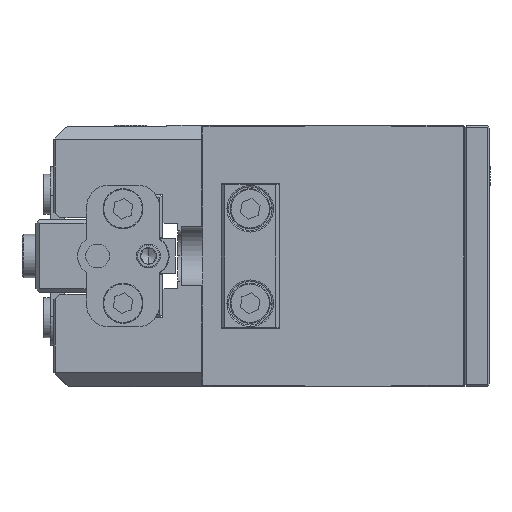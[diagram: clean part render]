
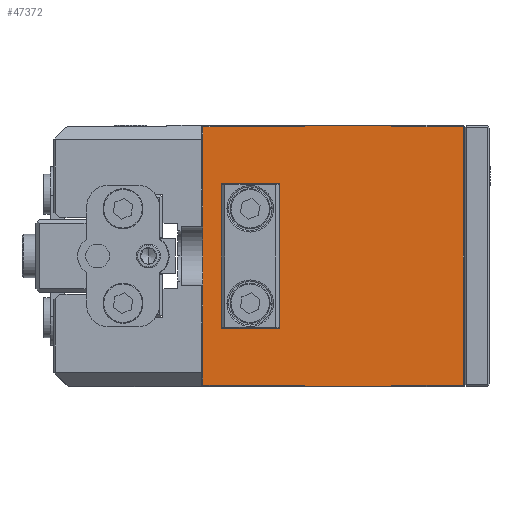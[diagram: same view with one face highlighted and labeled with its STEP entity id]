
A CAD part, left-side view. The second image highlights one B-rep face of the part: STEP entity #47372.
In plain terms, the highlighted planar face has unit normal (-1, 0, 0).
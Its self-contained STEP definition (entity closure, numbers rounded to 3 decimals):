
#345 = EDGE_CURVE ( 'NONE', #38798, #35877, #8992, .T. ) ;
#769 = EDGE_LOOP ( 'NONE', ( #5246, #3979 ) ) ;
#959 = CIRCLE ( 'NONE', #46395, 1.25 ) ;
#3096 = VECTOR ( 'NONE', #40786, 1000. ) ;
#3312 = VERTEX_POINT ( 'NONE', #7085 ) ;
#3409 = AXIS2_PLACEMENT_3D ( 'NONE', #40234, #43469, #29965 ) ;
#3620 = CARTESIAN_POINT ( 'NONE',  ( -34.661, 50.168, -16.468 ) ) ;
#3979 = ORIENTED_EDGE ( 'NONE', *, *, #43859, .F. ) ;
#4044 = CARTESIAN_POINT ( 'NONE',  ( -34.661, 42.668, -27.968 ) ) ;
#4956 = VERTEX_POINT ( 'NONE', #23498 ) ;
#5068 = EDGE_LOOP ( 'NONE', ( #24147, #17222, #40698, #37812, #10978, #6335, #14158, #31278, #20821, #39985, #9638, #22357 ) ) ;
#5246 = ORIENTED_EDGE ( 'NONE', *, *, #15777, .F. ) ;
#6335 = ORIENTED_EDGE ( 'NONE', *, *, #11146, .F. ) ;
#6599 = ORIENTED_EDGE ( 'NONE', *, *, #14352, .F. ) ;
#6952 = CARTESIAN_POINT ( 'NONE',  ( -34.661, 30.668, -27.968 ) ) ;
#7085 = CARTESIAN_POINT ( 'NONE',  ( -34.661, 50.168, -4.718 ) ) ;
#7225 = ORIENTED_EDGE ( 'NONE', *, *, #35446, .F. ) ;
#7798 = VERTEX_POINT ( 'NONE', #33891 ) ;
#7860 = LINE ( 'NONE', #22361, #24267 ) ;
#8299 = CARTESIAN_POINT ( 'NONE',  ( -34.661, 30.668, 8.032 ) ) ;
#8493 = LINE ( 'NONE', #27260, #21599 ) ;
#8522 = LINE ( 'NONE', #23747, #38168 ) ;
#8992 = LINE ( 'NONE', #23702, #43866 ) ;
#9470 = CIRCLE ( 'NONE', #17416, 1.25 ) ;
#9576 = CARTESIAN_POINT ( 'NONE',  ( -34.661, 56.668, -27.768 ) ) ;
#9638 = ORIENTED_EDGE ( 'NONE', *, *, #19456, .T. ) ;
#10684 = LINE ( 'NONE', #13404, #27168 ) ;
#10978 = ORIENTED_EDGE ( 'NONE', *, *, #14706, .F. ) ;
#11009 = DIRECTION ( 'NONE',  ( 0., 0., 1. ) ) ;
#11146 = EDGE_CURVE ( 'NONE', #37763, #21888, #7860, .T. ) ;
#11806 = CARTESIAN_POINT ( 'NONE',  ( -34.661, 42.668, 7.832 ) ) ;
#12216 = VERTEX_POINT ( 'NONE', #34340 ) ;
#12553 = CARTESIAN_POINT ( 'NONE',  ( -34.661, 50.168, -15.218 ) ) ;
#13019 = PLANE ( 'NONE',  #3409 ) ;
#13084 = LINE ( 'NONE', #47016, #42144 ) ;
#13404 = CARTESIAN_POINT ( 'NONE',  ( -34.661, 41.668, -27.768 ) ) ;
#14158 = ORIENTED_EDGE ( 'NONE', *, *, #18545, .F. ) ;
#14352 = EDGE_CURVE ( 'NONE', #38623, #35419, #35133, .T. ) ;
#14706 = EDGE_CURVE ( 'NONE', #21888, #38798, #31401, .T. ) ;
#14990 = CARTESIAN_POINT ( 'NONE',  ( -34.661, 50.168, -3.468 ) ) ;
#15777 = EDGE_CURVE ( 'NONE', #31758, #3312, #959, .T. ) ;
#15951 = CARTESIAN_POINT ( 'NONE',  ( -34.661, 50.168, -17.718 ) ) ;
#16694 = EDGE_CURVE ( 'NONE', #18770, #48795, #48584, .T. ) ;
#16755 = FACE_BOUND ( 'NONE', #40224, .T. ) ;
#17222 = ORIENTED_EDGE ( 'NONE', *, *, #45517, .F. ) ;
#17416 = AXIS2_PLACEMENT_3D ( 'NONE', #3620, #37588, #18843 ) ;
#18209 = VERTEX_POINT ( 'NONE', #33581 ) ;
#18291 = CARTESIAN_POINT ( 'NONE',  ( -34.661, 41.668, -27.768 ) ) ;
#18545 = EDGE_CURVE ( 'NONE', #12216, #37763, #33514, .T. ) ;
#18770 = VERTEX_POINT ( 'NONE', #8299 ) ;
#18843 = DIRECTION ( 'NONE',  ( 0., 0., 1. ) ) ;
#19221 = AXIS2_PLACEMENT_3D ( 'NONE', #44526, #41059, #22563 ) ;
#19456 = EDGE_CURVE ( 'NONE', #18770, #7798, #30135, .T. ) ;
#20079 = VERTEX_POINT ( 'NONE', #9576 ) ;
#20377 = EDGE_CURVE ( 'NONE', #48795, #18209, #8522, .T. ) ;
#20821 = ORIENTED_EDGE ( 'NONE', *, *, #20377, .F. ) ;
#21293 = EDGE_CURVE ( 'NONE', #18209, #12216, #34326, .T. ) ;
#21470 = EDGE_CURVE ( 'NONE', #7798, #28897, #13084, .T. ) ;
#21507 = DIRECTION ( 'NONE',  ( -1., 0., 0. ) ) ;
#21599 = VECTOR ( 'NONE', #23719, 1000. ) ;
#21664 = CARTESIAN_POINT ( 'NONE',  ( -34.661, 30.668, 8.032 ) ) ;
#21888 = VERTEX_POINT ( 'NONE', #6952 ) ;
#22172 = VECTOR ( 'NONE', #37653, 1000. ) ;
#22357 = ORIENTED_EDGE ( 'NONE', *, *, #21470, .T. ) ;
#22361 = CARTESIAN_POINT ( 'NONE',  ( -34.661, 30.668, 8.032 ) ) ;
#22563 = DIRECTION ( 'NONE',  ( 0., 0., 1. ) ) ;
#23498 = CARTESIAN_POINT ( 'NONE',  ( -34.661, 56.668, 7.832 ) ) ;
#23560 = DIRECTION ( 'NONE',  ( 0., 0., 1. ) ) ;
#23646 = CARTESIAN_POINT ( 'NONE',  ( -34.661, 30.668, -27.768 ) ) ;
#23702 = CARTESIAN_POINT ( 'NONE',  ( -34.661, 42.668, 8.032 ) ) ;
#23719 = DIRECTION ( 'NONE',  ( 0., 1., 0. ) ) ;
#23747 = CARTESIAN_POINT ( 'NONE',  ( -34.661, 41.668, 7.832 ) ) ;
#23755 = CARTESIAN_POINT ( 'NONE',  ( -34.661, 50.168, -3.468 ) ) ;
#23887 = VECTOR ( 'NONE', #38796, 1000. ) ;
#24147 = ORIENTED_EDGE ( 'NONE', *, *, #32131, .T. ) ;
#24161 = DIRECTION ( 'NONE',  ( 0., 1., 0. ) ) ;
#24267 = VECTOR ( 'NONE', #41330, 1000. ) ;
#24517 = CARTESIAN_POINT ( 'NONE',  ( -34.661, 50.168, -2.218 ) ) ;
#25666 = DIRECTION ( 'NONE',  ( 0., 0., -1. ) ) ;
#27168 = VECTOR ( 'NONE', #48344, 1000. ) ;
#27260 = CARTESIAN_POINT ( 'NONE',  ( -34.661, 41.668, 7.832 ) ) ;
#28897 = VERTEX_POINT ( 'NONE', #11806 ) ;
#29965 = DIRECTION ( 'NONE',  ( 0., 0., -1. ) ) ;
#30135 = LINE ( 'NONE', #37890, #22172 ) ;
#31019 = AXIS2_PLACEMENT_3D ( 'NONE', #23755, #35251, #43476 ) ;
#31278 = ORIENTED_EDGE ( 'NONE', *, *, #21293, .F. ) ;
#31334 = CARTESIAN_POINT ( 'NONE',  ( -34.661, 20.868, 8.032 ) ) ;
#31341 = VECTOR ( 'NONE', #25666, 1000. ) ;
#31401 = LINE ( 'NONE', #34874, #46324 ) ;
#31758 = VERTEX_POINT ( 'NONE', #24517 ) ;
#31991 = FACE_OUTER_BOUND ( 'NONE', #5068, .T. ) ;
#32131 = EDGE_CURVE ( 'NONE', #28897, #4956, #8493, .T. ) ;
#32777 = EDGE_CURVE ( 'NONE', #35877, #20079, #10684, .T. ) ;
#33514 = LINE ( 'NONE', #18291, #3096 ) ;
#33581 = CARTESIAN_POINT ( 'NONE',  ( -34.661, 20.868, 7.832 ) ) ;
#33891 = CARTESIAN_POINT ( 'NONE',  ( -34.661, 42.668, 8.032 ) ) ;
#34326 = LINE ( 'NONE', #31334, #23887 ) ;
#34340 = CARTESIAN_POINT ( 'NONE',  ( -34.661, 20.868, -27.768 ) ) ;
#34874 = CARTESIAN_POINT ( 'NONE',  ( -34.661, 41.668, -27.968 ) ) ;
#35133 = CIRCLE ( 'NONE', #19221, 1.25 ) ;
#35251 = DIRECTION ( 'NONE',  ( -1., 0., 0. ) ) ;
#35419 = VERTEX_POINT ( 'NONE', #15951 ) ;
#35446 = EDGE_CURVE ( 'NONE', #35419, #38623, #9470, .T. ) ;
#35877 = VERTEX_POINT ( 'NONE', #44513 ) ;
#37588 = DIRECTION ( 'NONE',  ( -1., 0., 0. ) ) ;
#37653 = DIRECTION ( 'NONE',  ( 0., 1., 0. ) ) ;
#37763 = VERTEX_POINT ( 'NONE', #23646 ) ;
#37812 = ORIENTED_EDGE ( 'NONE', *, *, #345, .F. ) ;
#37890 = CARTESIAN_POINT ( 'NONE',  ( -34.661, 41.668, 8.032 ) ) ;
#38168 = VECTOR ( 'NONE', #38971, 1000. ) ;
#38623 = VERTEX_POINT ( 'NONE', #12553 ) ;
#38796 = DIRECTION ( 'NONE',  ( 0., 0., -1. ) ) ;
#38798 = VERTEX_POINT ( 'NONE', #4044 ) ;
#38971 = DIRECTION ( 'NONE',  ( 0., -1., 0. ) ) ;
#39198 = DIRECTION ( 'NONE',  ( 0., 0., 1. ) ) ;
#39985 = ORIENTED_EDGE ( 'NONE', *, *, #16694, .F. ) ;
#40224 = EDGE_LOOP ( 'NONE', ( #6599, #7225 ) ) ;
#40234 = CARTESIAN_POINT ( 'NONE',  ( -34.661, 41.668, 8.032 ) ) ;
#40698 = ORIENTED_EDGE ( 'NONE', *, *, #32777, .F. ) ;
#40786 = DIRECTION ( 'NONE',  ( 0., 1., 0. ) ) ;
#41059 = DIRECTION ( 'NONE',  ( -1., 0., 0. ) ) ;
#41330 = DIRECTION ( 'NONE',  ( 0., 0., -1. ) ) ;
#42144 = VECTOR ( 'NONE', #46770, 1000. ) ;
#42276 = VECTOR ( 'NONE', #23560, 1000. ) ;
#43469 = DIRECTION ( 'NONE',  ( 1., 0., 0. ) ) ;
#43476 = DIRECTION ( 'NONE',  ( 0., 0., 1. ) ) ;
#43859 = EDGE_CURVE ( 'NONE', #3312, #31758, #49352, .T. ) ;
#43866 = VECTOR ( 'NONE', #39198, 1000. ) ;
#44313 = CARTESIAN_POINT ( 'NONE',  ( -34.661, 56.668, 8.032 ) ) ;
#44513 = CARTESIAN_POINT ( 'NONE',  ( -34.661, 42.668, -27.768 ) ) ;
#44526 = CARTESIAN_POINT ( 'NONE',  ( -34.661, 50.168, -16.468 ) ) ;
#44793 = CARTESIAN_POINT ( 'NONE',  ( -34.661, 30.668, 7.832 ) ) ;
#44817 = LINE ( 'NONE', #44313, #42276 ) ;
#45517 = EDGE_CURVE ( 'NONE', #20079, #4956, #44817, .T. ) ;
#46324 = VECTOR ( 'NONE', #24161, 1000. ) ;
#46395 = AXIS2_PLACEMENT_3D ( 'NONE', #14990, #21507, #11009 ) ;
#46770 = DIRECTION ( 'NONE',  ( 0., 0., -1. ) ) ;
#47016 = CARTESIAN_POINT ( 'NONE',  ( -34.661, 42.668, -26.468 ) ) ;
#47209 = FACE_BOUND ( 'NONE', #769, .T. ) ;
#47372 = ADVANCED_FACE ( 'NONE', ( #31991, #16755, #47209 ), #13019, .F. ) ;
#48344 = DIRECTION ( 'NONE',  ( 0., 1., 0. ) ) ;
#48584 = LINE ( 'NONE', #21664, #31341 ) ;
#48795 = VERTEX_POINT ( 'NONE', #44793 ) ;
#49352 = CIRCLE ( 'NONE', #31019, 1.25 ) ;
